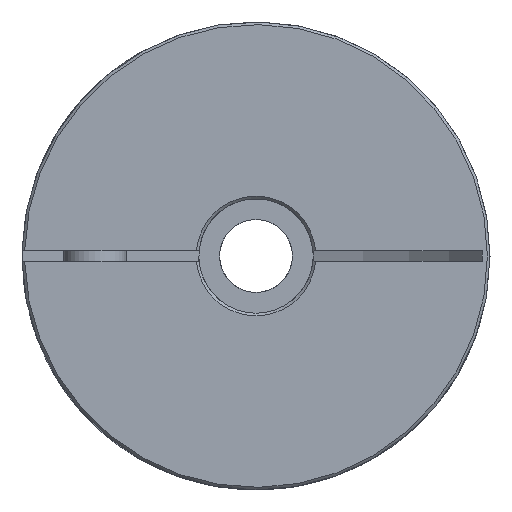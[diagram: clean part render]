
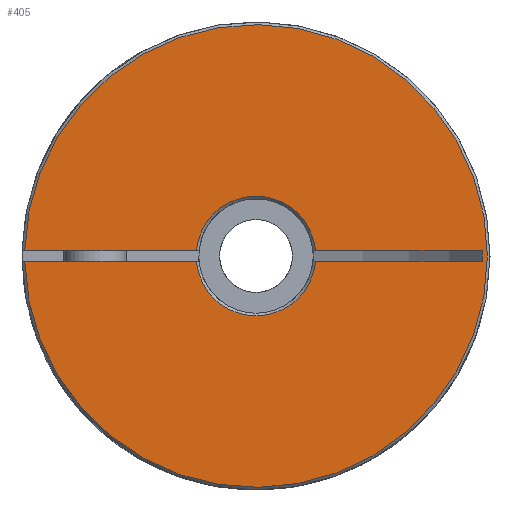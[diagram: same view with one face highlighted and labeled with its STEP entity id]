
A CAD part, left-side view. The second image highlights one B-rep face of the part: STEP entity #405.
In plain terms, the highlighted planar face has unit normal (-1, 0, 0).
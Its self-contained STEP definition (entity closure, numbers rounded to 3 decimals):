
#405 = ADVANCED_FACE( 'NONE', ( #877 ), #878, .F. );
#877 = FACE_OUTER_BOUND( '', #1488, .T. );
#878 = PLANE( '', #1489 );
#1488 = EDGE_LOOP( '', ( #2318, #2319, #2320, #2321, #2322, #2323, #2324, #2325 ) );
#1489 = AXIS2_PLACEMENT_3D( '', #2326, #2327, #2328 );
#2318 = ORIENTED_EDGE( '', *, *, #3305, .T. );
#2319 = ORIENTED_EDGE( '', *, *, #3441, .T. );
#2320 = ORIENTED_EDGE( '', *, *, #3219, .T. );
#2321 = ORIENTED_EDGE( '', *, *, #3352, .T. );
#2322 = ORIENTED_EDGE( '', *, *, #3442, .F. );
#2323 = ORIENTED_EDGE( '', *, *, #3443, .T. );
#2324 = ORIENTED_EDGE( '', *, *, #3444, .F. );
#2325 = ORIENTED_EDGE( '', *, *, #3445, .T. );
#2326 = CARTESIAN_POINT( '', ( 0., 11., 0. ) );
#2327 = DIRECTION( '', ( 1., 0., 0. ) );
#2328 = DIRECTION( '', ( 0., 1., 0. ) );
#3219 = EDGE_CURVE( 'NONE', #3728, #3729, #3730, .T. );
#3305 = EDGE_CURVE( 'NONE', #3877, #3875, #3878, .T. );
#3352 = EDGE_CURVE( 'NONE', #3729, #3952, #3953, .F. );
#3441 = EDGE_CURVE( 'NONE', #3875, #3728, #4085, .T. );
#3442 = EDGE_CURVE( 'NONE', #4086, #3952, #4087, .F. );
#3443 = EDGE_CURVE( 'NONE', #4086, #4088, #4089, .T. );
#3444 = EDGE_CURVE( 'NONE', #4090, #4088, #4091, .F. );
#3445 = EDGE_CURVE( 'NONE', #4090, #3877, #4092, .T. );
#3728 = VERTEX_POINT( 'NONE', #4458 );
#3729 = VERTEX_POINT( 'NONE', #4459 );
#3730 = LINE( '', #4460, #4461 );
#3875 = VERTEX_POINT( 'NONE', #4642 );
#3877 = VERTEX_POINT( 'NONE', #4647 );
#3878 = LINE( '', #4648, #4649 );
#3952 = VERTEX_POINT( 'NONE', #4733 );
#3953 = CIRCLE( '', #4734, 44.5 );
#4085 = CIRCLE( '', #5245, 11.5 );
#4086 = VERTEX_POINT( 'NONE', #5246 );
#4087 = LINE( '', #5247, #5248 );
#4088 = VERTEX_POINT( 'NONE', #5249 );
#4089 = CIRCLE( '', #5250, 11.5 );
#4090 = VERTEX_POINT( 'NONE', #5251 );
#4091 = LINE( '', #5252, #5253 );
#4092 = LINE( '', #5254, #5255 );
#4458 = CARTESIAN_POINT( '', ( 0., -11.456, 1. ) );
#4459 = CARTESIAN_POINT( '', ( 0., -44.489, 1. ) );
#4460 = CARTESIAN_POINT( '', ( 0., 11., 1. ) );
#4461 = VECTOR( '', #5658, 1000. );
#4642 = CARTESIAN_POINT( '', ( 0., 11.456, 1. ) );
#4647 = CARTESIAN_POINT( '', ( 0., 43.508, 1. ) );
#4648 = CARTESIAN_POINT( '', ( 0., 11., 1. ) );
#4649 = VECTOR( '', #5794, 1000. );
#4733 = CARTESIAN_POINT( '', ( 0., -44.489, -1. ) );
#4734 = AXIS2_PLACEMENT_3D( '', #5871, #5872, #5873 );
#5245 = AXIS2_PLACEMENT_3D( '', #5997, #5998, #5999 );
#5246 = CARTESIAN_POINT( '', ( 0., -11.456, -1. ) );
#5247 = CARTESIAN_POINT( '', ( 0., -9., -1. ) );
#5248 = VECTOR( '', #6000, 1000. );
#5249 = CARTESIAN_POINT( '', ( 0., 11.456, -1. ) );
#5250 = AXIS2_PLACEMENT_3D( '', #6001, #6002, #6003 );
#5251 = CARTESIAN_POINT( '', ( 0., 43.508, -1. ) );
#5252 = CARTESIAN_POINT( '', ( 0., -9., -1. ) );
#5253 = VECTOR( '', #6004, 1000. );
#5254 = CARTESIAN_POINT( '', ( 0., 43.508, -1. ) );
#5255 = VECTOR( '', #6005, 1000. );
#5658 = DIRECTION( '', ( 0., -1., 0. ) );
#5794 = DIRECTION( '', ( 0., -1., 0. ) );
#5871 = CARTESIAN_POINT( '', ( 0., 0., 0. ) );
#5872 = DIRECTION( '', ( 1., 0., 0. ) );
#5873 = DIRECTION( '', ( 0., 0., -1. ) );
#5997 = CARTESIAN_POINT( '', ( 0., 0., 0. ) );
#5998 = DIRECTION( '', ( 1., 0., 0. ) );
#5999 = DIRECTION( '', ( 0., 0., -1. ) );
#6000 = DIRECTION( '', ( 0., 1., 0. ) );
#6001 = CARTESIAN_POINT( '', ( 0., 0., 0. ) );
#6002 = DIRECTION( '', ( 1., 0., 0. ) );
#6003 = DIRECTION( '', ( 0., 0., -1. ) );
#6004 = DIRECTION( '', ( 0., 1., 0. ) );
#6005 = DIRECTION( '', ( 0., 0., 1. ) );
